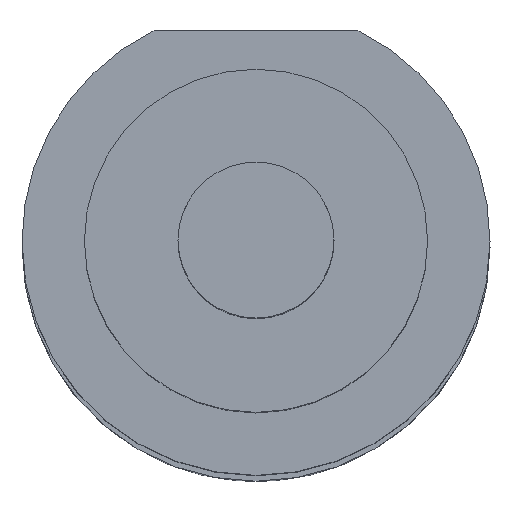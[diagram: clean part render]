
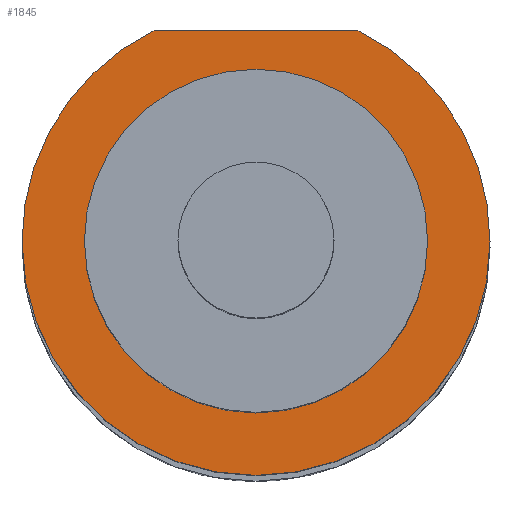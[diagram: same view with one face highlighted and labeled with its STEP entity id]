
A CAD part, top view. The second image highlights one B-rep face of the part: STEP entity #1845.
In plain terms, the highlighted planar face has unit normal (0, 0, 1).
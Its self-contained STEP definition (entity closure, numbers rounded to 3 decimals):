
#15 = ORIENTED_EDGE ( 'NONE', *, *, #1028, .F. ) ;
#18 = ORIENTED_EDGE ( 'NONE', *, *, #770, .T. ) ;
#28 = DIRECTION ( 'NONE',  ( 0., 0., -1. ) ) ;
#129 = CARTESIAN_POINT ( 'NONE',  ( 0., 0., 15.5 ) ) ;
#168 = CARTESIAN_POINT ( 'NONE',  ( -6.538, 13.5, 15.5 ) ) ;
#191 = VERTEX_POINT ( 'NONE', #1043 ) ;
#295 = CIRCLE ( 'NONE', #1463, 11. ) ;
#307 = DIRECTION ( 'NONE',  ( 0., 0., -1. ) ) ;
#386 = CIRCLE ( 'NONE', #601, 15. ) ;
#400 = CARTESIAN_POINT ( 'NONE',  ( 11., 0., 15.5 ) ) ;
#419 = EDGE_CURVE ( 'NONE', #2108, #191, #630, .T. ) ;
#444 = AXIS2_PLACEMENT_3D ( 'NONE', #2207, #2056, #1061 ) ;
#490 = CARTESIAN_POINT ( 'NONE',  ( 6.538, 13.5, 15.5 ) ) ;
#583 = PLANE ( 'NONE',  #444 ) ;
#601 = AXIS2_PLACEMENT_3D ( 'NONE', #927, #28, #2008 ) ;
#630 = CIRCLE ( 'NONE', #1747, 15. ) ;
#635 = DIRECTION ( 'NONE',  ( 1., 0., 0. ) ) ;
#645 = DIRECTION ( 'NONE',  ( 0., 0., 1. ) ) ;
#760 = EDGE_CURVE ( 'NONE', #1139, #1088, #295, .T. ) ;
#770 = EDGE_CURVE ( 'NONE', #2108, #771, #1613, .T. ) ;
#771 = VERTEX_POINT ( 'NONE', #168 ) ;
#802 = VERTEX_POINT ( 'NONE', #872 ) ;
#814 = VECTOR ( 'NONE', #1896, 1000. ) ;
#826 = DIRECTION ( 'NONE',  ( 1., 0., 0. ) ) ;
#872 = CARTESIAN_POINT ( 'NONE',  ( -15., 0., 15.5 ) ) ;
#927 = CARTESIAN_POINT ( 'NONE',  ( 0., 0., 15.5 ) ) ;
#941 = CIRCLE ( 'NONE', #1430, 15. ) ;
#1008 = DIRECTION ( 'NONE',  ( 0., 0., 1. ) ) ;
#1028 = EDGE_CURVE ( 'NONE', #191, #802, #941, .T. ) ;
#1043 = CARTESIAN_POINT ( 'NONE',  ( 15., 0., 15.5 ) ) ;
#1061 = DIRECTION ( 'NONE',  ( -1., 0., 0. ) ) ;
#1088 = VERTEX_POINT ( 'NONE', #2001 ) ;
#1135 = EDGE_LOOP ( 'NONE', ( #1680, #18, #1942, #15 ) ) ;
#1136 = ORIENTED_EDGE ( 'NONE', *, *, #760, .F. ) ;
#1139 = VERTEX_POINT ( 'NONE', #400 ) ;
#1164 = CIRCLE ( 'NONE', #1529, 11. ) ;
#1263 = EDGE_CURVE ( 'NONE', #1088, #1139, #1164, .T. ) ;
#1401 = DIRECTION ( 'NONE',  ( 0., 0., -1. ) ) ;
#1414 = CARTESIAN_POINT ( 'NONE',  ( 0., 0., 15.5 ) ) ;
#1430 = AXIS2_PLACEMENT_3D ( 'NONE', #1414, #1401, #1595 ) ;
#1463 = AXIS2_PLACEMENT_3D ( 'NONE', #2080, #1008, #2253 ) ;
#1483 = FACE_BOUND ( 'NONE', #2294, .T. ) ;
#1529 = AXIS2_PLACEMENT_3D ( 'NONE', #1721, #645, #826 ) ;
#1595 = DIRECTION ( 'NONE',  ( 1., 0., 0. ) ) ;
#1604 = CARTESIAN_POINT ( 'NONE',  ( 6.538, 13.5, 15.5 ) ) ;
#1613 = LINE ( 'NONE', #490, #814 ) ;
#1628 = EDGE_CURVE ( 'NONE', #802, #771, #386, .T. ) ;
#1631 = ORIENTED_EDGE ( 'NONE', *, *, #1263, .F. ) ;
#1680 = ORIENTED_EDGE ( 'NONE', *, *, #419, .F. ) ;
#1721 = CARTESIAN_POINT ( 'NONE',  ( 0., 0., 15.5 ) ) ;
#1747 = AXIS2_PLACEMENT_3D ( 'NONE', #129, #307, #635 ) ;
#1845 = ADVANCED_FACE ( 'NONE', ( #1483, #2043 ), #583, .F. ) ;
#1896 = DIRECTION ( 'NONE',  ( -1., 0., 0. ) ) ;
#1942 = ORIENTED_EDGE ( 'NONE', *, *, #1628, .F. ) ;
#2001 = CARTESIAN_POINT ( 'NONE',  ( -11., 0., 15.5 ) ) ;
#2008 = DIRECTION ( 'NONE',  ( 1., 0., 0. ) ) ;
#2043 = FACE_OUTER_BOUND ( 'NONE', #1135, .T. ) ;
#2056 = DIRECTION ( 'NONE',  ( 0., 0., -1. ) ) ;
#2080 = CARTESIAN_POINT ( 'NONE',  ( 0., 0., 15.5 ) ) ;
#2108 = VERTEX_POINT ( 'NONE', #1604 ) ;
#2207 = CARTESIAN_POINT ( 'NONE',  ( 0., 0., 15.5 ) ) ;
#2253 = DIRECTION ( 'NONE',  ( 1., 0., 0. ) ) ;
#2294 = EDGE_LOOP ( 'NONE', ( #1136, #1631 ) ) ;
